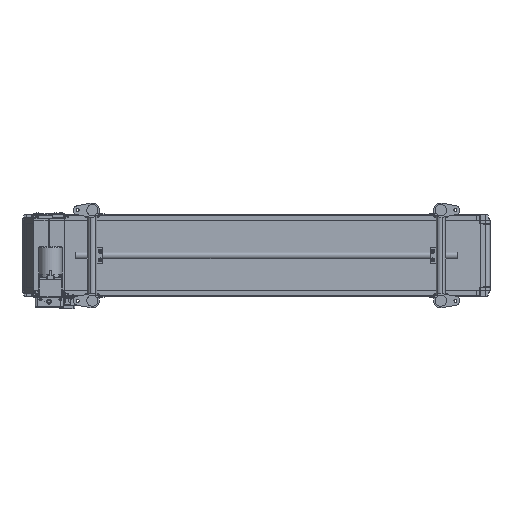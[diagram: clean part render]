
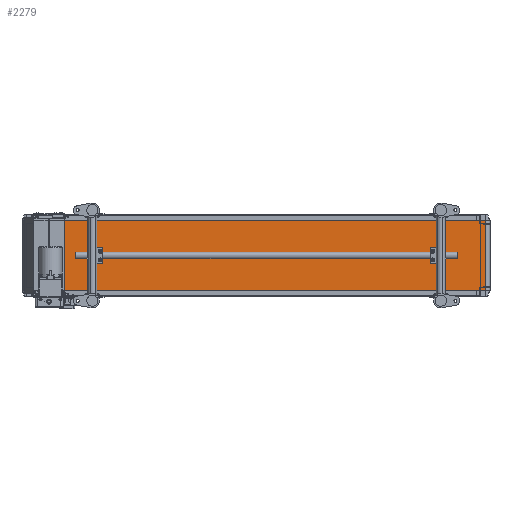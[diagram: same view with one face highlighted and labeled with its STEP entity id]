
A CAD part, front view. The second image highlights one B-rep face of the part: STEP entity #2279.
In plain terms, the highlighted planar face has unit normal (0.019, -1, 0).
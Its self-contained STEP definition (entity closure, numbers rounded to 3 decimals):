
#2279=ADVANCED_FACE('',(#4851),#4850,.F.);
#4850=PLANE('',#25140);
#4851=FACE_OUTER_BOUND('',#25141,.T.);
#25137=CARTESIAN_POINT('',(1992.839,-34.002,-160.));
#25138=DIRECTION('',(-0.02,1.,0.));
#25139=DIRECTION('',(-1.,-0.02,0.));
#25140=AXIS2_PLACEMENT_3D('',#25137,#25138,#25139);
#25141=EDGE_LOOP('',(#36641,#36642,#36643,#36644));
#36641=ORIENTED_EDGE('',*,*,#46195,.T.);
#36642=ORIENTED_EDGE('',*,*,#46196,.F.);
#36643=ORIENTED_EDGE('',*,*,#46197,.F.);
#36644=ORIENTED_EDGE('',*,*,#46198,.T.);
#46195=EDGE_CURVE('',#52156,#52157,#52158,.T.);
#46196=EDGE_CURVE('',#52164,#52157,#52165,.T.);
#46197=EDGE_CURVE('',#52171,#52164,#52172,.T.);
#46198=EDGE_CURVE('',#52171,#52156,#52178,.T.);
#52156=VERTEX_POINT('',#84027);
#52157=VERTEX_POINT('',#84028);
#52158=LINE('',#84029,#84030);
#52164=VERTEX_POINT('',#84032);
#52165=LINE('',#84033,#84034);
#52171=VERTEX_POINT('',#84036);
#52172=LINE('',#84037,#84038);
#52178=LINE('',#84040,#84041);
#84027=CARTESIAN_POINT('',(149.668,-70.003,-150.));
#84028=CARTESIAN_POINT('',(1982.841,-34.197,-150.));
#84029=CARTESIAN_POINT('',(149.668,-70.003,-150.));
#84030=VECTOR('',#84031,1833.522);
#84031=DIRECTION('',(1.,0.02,0.));
#84032=CARTESIAN_POINT('',(1982.841,-34.197,150.));
#84033=CARTESIAN_POINT('',(1982.841,-34.197,150.));
#84034=VECTOR('',#84035,300.);
#84035=DIRECTION('',(0.,0.,-1.));
#84036=CARTESIAN_POINT('',(149.668,-70.003,150.));
#84037=CARTESIAN_POINT('',(149.668,-70.003,150.));
#84038=VECTOR('',#84039,1833.522);
#84039=DIRECTION('',(1.,0.02,0.));
#84040=CARTESIAN_POINT('',(149.668,-70.003,150.));
#84041=VECTOR('',#84042,300.);
#84042=DIRECTION('',(0.,0.,-1.));
